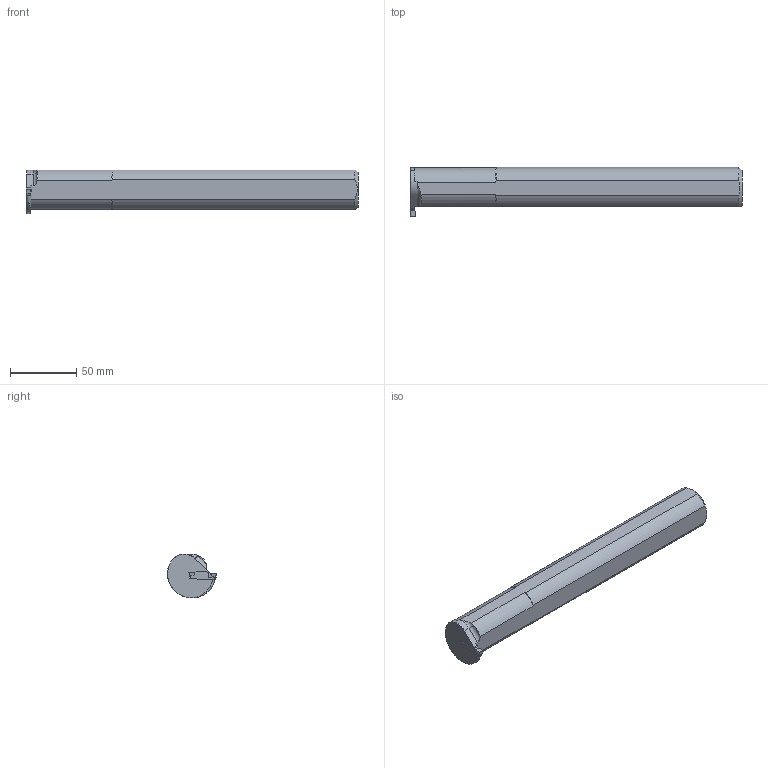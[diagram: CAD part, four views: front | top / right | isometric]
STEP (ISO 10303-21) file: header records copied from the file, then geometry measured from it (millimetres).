
FILE_DESCRIPTION(/* description */ (''),/* implementation_level */ '2;1');
FILE_NAME(/* name */ 'MGIVR24-20-4-HAAS_20200714.stp',/* time_stamp */ '2020-11-19T09:03:43+09:00',/* author */ (''),/* organization */ (''),/* preprocessor_version */ 'ST-DEVELOPER v11',/* originating_system */ 'SIEMENS UGS NX 6.0',/* authorisation */ '');
FILE_SCHEMA (('CONFIG_CONTROL_DESIGN'));
Length unit declared in the file: millimetre
Products named in the file (1): userC5370mkv
Bounding box: 251.45 x 37.38 x 33.14 mm (x, y, z)
Volume: 177587.1 mm3; surface area: 32267.4 mm2
Topology: 2 solids, 2 shells, 63 faces, 170 edges, 111 vertices
Faces by surface type: plane 33, cylinder 22, cone 5, torus 3
Full cylindrical faces by diameter (mm): 8 x1
Entity records: 2125 total; most frequent: CARTESIAN_POINT 476, ORIENTED_EDGE 328, DIRECTION 324, EDGE_CURVE 164, AXIS2_PLACEMENT_3D 116, VERTEX_POINT 109, LINE 92, VECTOR 92
